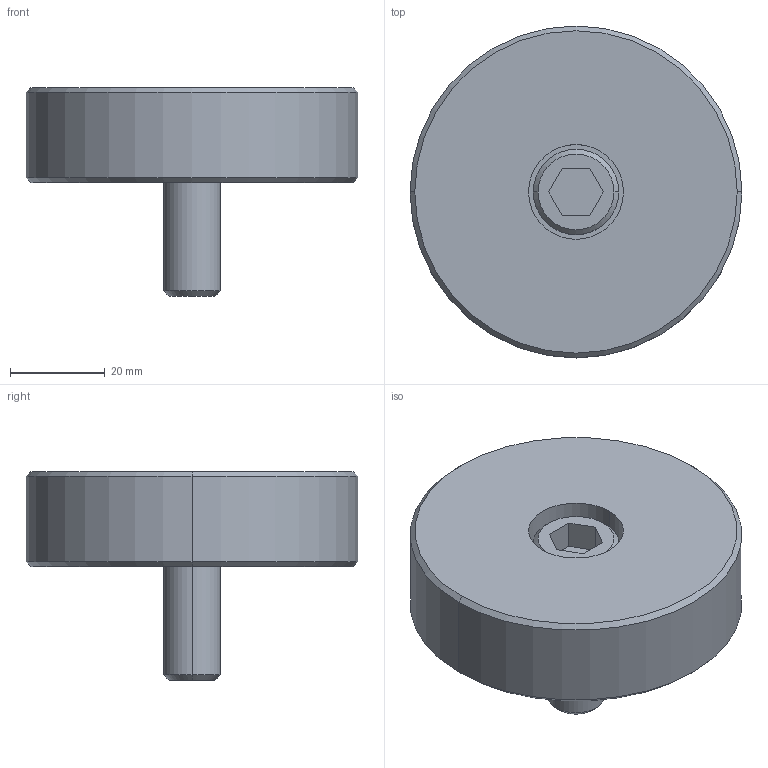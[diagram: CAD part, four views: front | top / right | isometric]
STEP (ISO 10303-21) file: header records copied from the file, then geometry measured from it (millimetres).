
FILE_DESCRIPTION((''),'2;1');
FILE_NAME('','2010-08-30T16:50:18+09:00',('misumi'),(''),'M/STEP i/f 1R2-14','CADmeister v5.1','');
FILE_SCHEMA(('AUTOMOTIVE_DESIGN'));
Length unit declared in the file: millimetre
Products named in the file (1): DEB70-20-R
Bounding box: 70 x 70 x 44 mm (x, y, z)
Volume: 77303.7 mm3; surface area: 15134.1 mm2
Topology: 2 solids, 2 shells, 31 faces, 64 edges, 40 vertices
Faces by surface type: plane 13, cylinder 10, cone 8
Entity records: 924 total; most frequent: DIRECTION 156, CARTESIAN_POINT 136, ORIENTED_EDGE 128, EDGE_CURVE 64, AXIS2_PLACEMENT_3D 60, VERTEX_POINT 40, LINE 36, VECTOR 36
